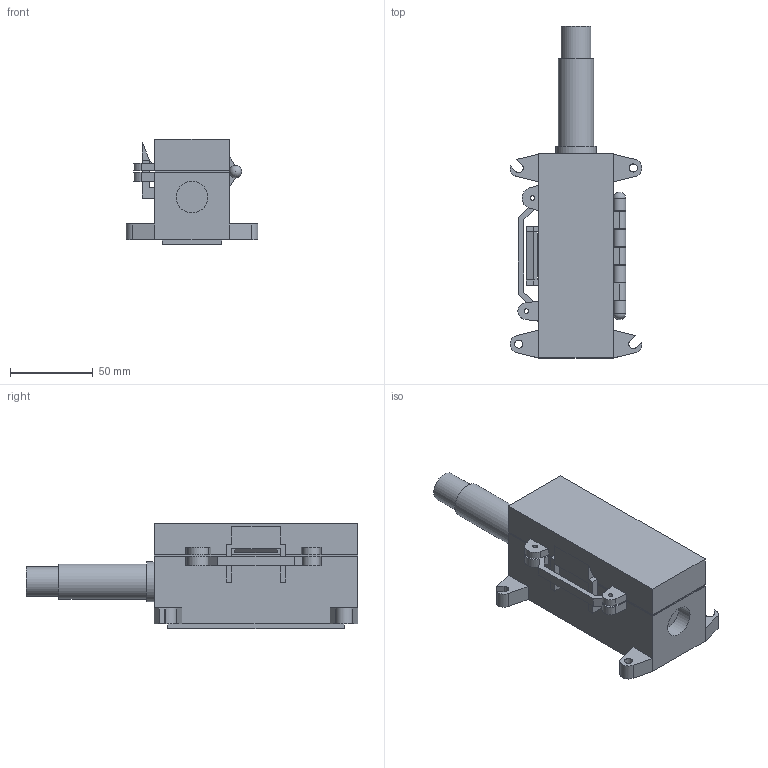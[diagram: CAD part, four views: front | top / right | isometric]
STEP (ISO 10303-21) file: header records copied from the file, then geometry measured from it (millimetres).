
FILE_DESCRIPTION(/* description */ (''),/* implementation_level */ '2;1');
FILE_NAME(/* name */ 'R:\Temp\J. Narvaez\IAN DRAWINGS\002 - Sensors\009 - MCS-HUMD-OS\MCS-HUMD-OS 3D.stp',/* time_stamp */ '2022-11-14T14:32:34-05:00',/* author */ ('mjeter'),/* organization */ ('unknown'),/* preprocessor_version */ 'ST-DEVELOPER v19',/* originating_system */ 'Autodesk Inventor 2023',/* authorisation */ '');
FILE_SCHEMA (('AUTOMOTIVE_DESIGN { 1 0 10303 214 3 1 1 }'));
Length unit declared in the file: inch
Products named in the file (1): MCS-HUMD-OS 3D
Bounding box: 79.55 x 200.11 x 63.69 mm (x, y, z)
Volume: 143513.4 mm3; surface area: 72788.3 mm2
Topology: 1 solids, 1 shells, 155 faces, 407 edges, 260 vertices
Faces by surface type: plane 118, cylinder 35, sphere 2
Full cylindrical faces by diameter (mm): 2.743 x4, 4.889 x1, 4.89 x1, 7.366 x6, 17.78 x1, 19.05 x1, 21.336 x1, 24.168 x1, 25.4 x2
Entity records: 4807 total; most frequent: CARTESIAN_POINT 821, ORIENTED_EDGE 810, DIRECTION 791, EDGE_CURVE 405, LINE 331, VECTOR 331, VERTEX_POINT 260, AXIS2_PLACEMENT_3D 230
